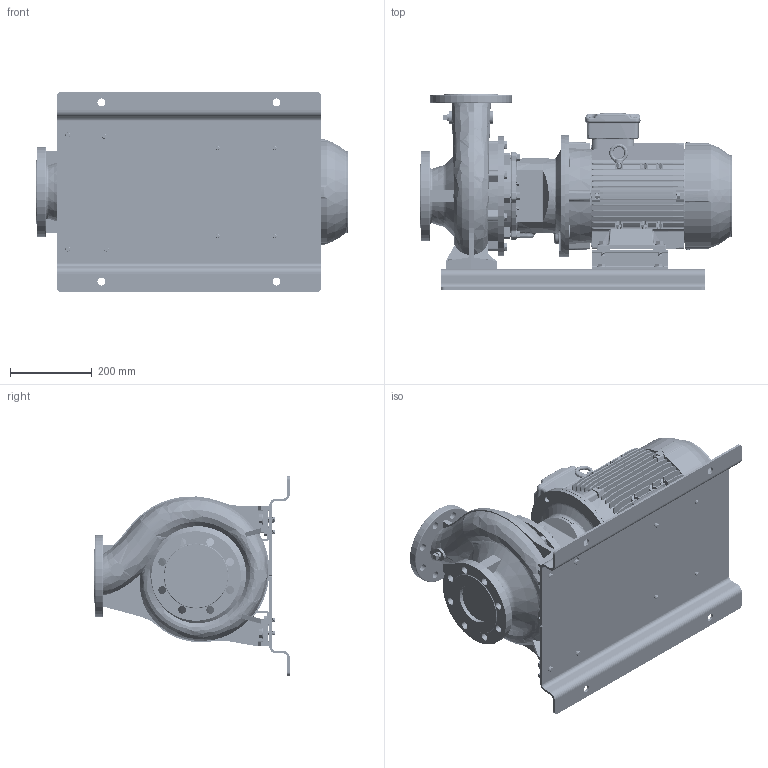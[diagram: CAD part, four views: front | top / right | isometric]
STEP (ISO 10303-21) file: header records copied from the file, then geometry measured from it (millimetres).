
FILE_DESCRIPTION (( 'STEP AP214' ), '1' );
FILE_NAME ('GSD4 80-200_5.5_(132S)_W21_BP.STEP', '2026-05-08T06:48:44', ( '' ), ( '' ), 'SwSTEP 2.0', 'SolidWorks 2024', '' );
FILE_SCHEMA (( 'AUTOMOTIVE_DESIGN' ));
Length unit declared in the file: millimetre
Products named in the file (13): Parametric Flat Washer_M10; Parametric bolt_SFT-A249B; Parametric bolt and washer_SFT-A249B; N5S5 GSDA-557 F1-1832920-00; 140 x 48 - 271472022; Parametric bolt and washer_SFT-A253B; Parametric bolt_SFT-A253B; Parametric Flat Washer_M12; 80-200-132S_ﾃﾞﾌｫﾙﾄ; Parametric bolt and washer_SFT-A299B; GSD4 80-200_5.5_(132S)_W21_BP; Parametric bolt_SFT-A299B; 132S ALIE3_W21T_B35
Assembly tree (23 placements, depth 3):
  GSD4 80-200_5.5_(132S)_W21_BP
    80-200-132S_ﾃﾞﾌｫﾙﾄ
    N5S5 GSDA-557 F1-1832920-00
    140 x 48 - 271472022  x2
    Parametric bolt and washer_SFT-A299B  x4
      Parametric bolt_SFT-A299B
      Parametric Flat Washer_M12
    Parametric bolt and washer_SFT-A249B  x4
      Parametric bolt_SFT-A249B
      Parametric Flat Washer_M10
    Parametric bolt and washer_SFT-A253B  x4
      Parametric bolt_SFT-A253B
      Parametric Flat Washer_M10
    132S ALIE3_W21T_B35
Bounding box: 764.8 x 480 x 490 mm (x, y, z)
Volume: 36803720 mm3; surface area: 2886033 mm2
Topology: 33 solids, 33 shells, 5053 faces, 13073 edges, 8439 vertices
Faces by surface type: plane 2978, cylinder 1213, torus 297, cone 269, bspline 264, sphere 32
Entity records: 177165 total; most frequent: CARTESIAN_POINT 68133, ORIENTED_EDGE 23402, DIRECTION 21225, EDGE_CURVE 11701, VECTOR 7767, LINE 7767, VERTEX_POINT 7559, AXIS2_PLACEMENT_3D 6729
